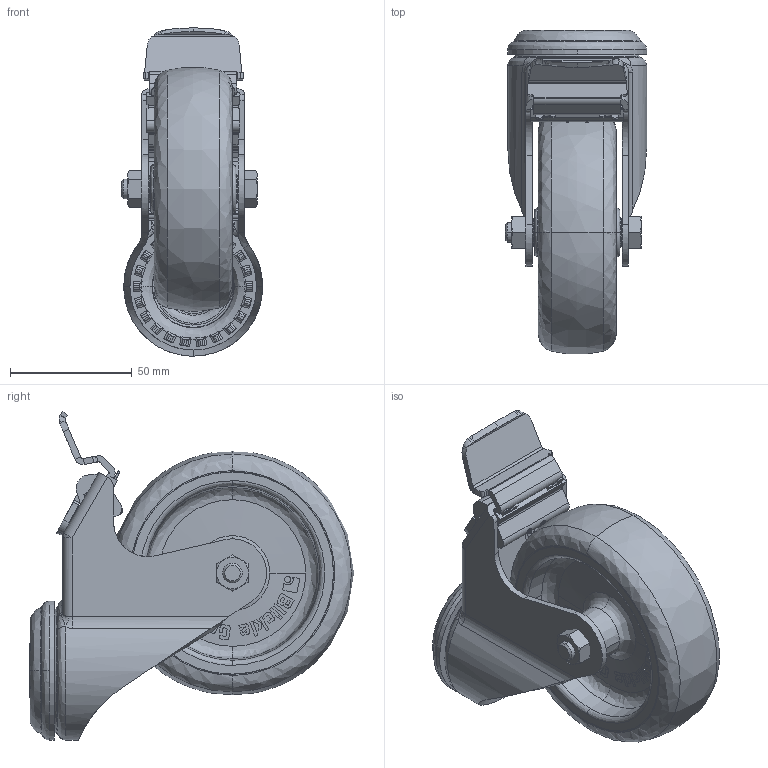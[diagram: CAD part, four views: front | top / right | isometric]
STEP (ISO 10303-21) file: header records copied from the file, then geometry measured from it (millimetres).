
FILE_DESCRIPTION (( 'STEP AP214' ), '1' );
FILE_NAME ('1.5029 Pyörä D100 H134 kääntyvä lukollinen liukulaakerilla.STEP', '2025-09-17T07:20:21', ( '' ), ( '' ), 'SwSTEP 2.0', 'SolidWorks 2025', '' );
FILE_SCHEMA (( 'AUTOMOTIVE_DESIGN' ));
Length unit declared in the file: millimetre
Products named in the file (1): 1.5029 Pyörä D100 H134 kääntyvä lukollinen liukulaakerilla
Bounding box: 58 x 132.86 x 134.57 mm (x, y, z)
Volume: 227245 mm3; surface area: 72571 mm2
Topology: 3 solids, 6 shells, 1858 faces, 4920 edges, 3172 vertices
Faces by surface type: plane 803, bspline 602, cylinder 342, cone 111
Entity records: 98230 total; most frequent: CARTESIAN_POINT 37230, ORIENTED_EDGE 9828, DIRECTION 6131, EDGE_CURVE 4914, VERTEX_POINT 3172, VECTOR 2265, LINE 2265, EDGE_LOOP 1976
